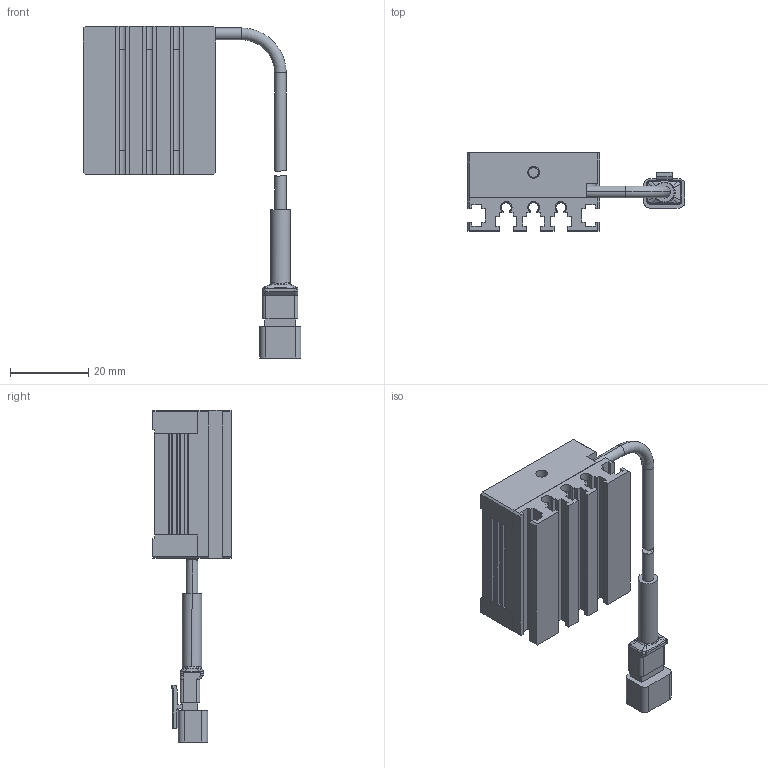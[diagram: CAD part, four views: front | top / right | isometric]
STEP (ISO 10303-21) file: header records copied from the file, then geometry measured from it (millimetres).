
FILE_DESCRIPTION (( 'STEP AP203' ), '1' );
FILE_NAME ('26x30.STEP', '2024-09-30T00:03:01', ( 'CCS' ), ( 'シーシーエス株式会社' ), 'SwSTEP 2.0', 'SolidWorks 2022', '' );
FILE_SCHEMA (( 'CONFIG_CONTROL_DESIGN' ));
Length unit declared in the file: millimetre
Products named in the file (7): レンズ30; ブロック30A; BSCA002-N007_M2x12_CAP(三価ｸﾛﾑ黒色); SMケーブル_パターン2; ブロック30B; フレーム30; 26x30
Assembly tree (9 placements, depth 2):
  26x30
    フレーム30
    レンズ30
    ブロック30B
    ブロック30A
    BSCA002-N007_M2x12_CAP(三価ｸﾛﾑ黒色)  x4
    SMケーブル_パターン2
Bounding box: 55.75 x 20 x 85 mm (x, y, z)
Volume: 21407.9 mm3; surface area: 15446.3 mm2
Topology: 10 solids, 10 shells, 481 faces, 1243 edges, 785 vertices
Faces by surface type: plane 288, cylinder 107, bspline 44, cone 24, torus 18
Entity records: 14886 total; most frequent: CARTESIAN_POINT 4295, ORIENTED_EDGE 2118, DIRECTION 1903, EDGE_CURVE 1059, VECTOR 761, LINE 761, VERTEX_POINT 686, AXIS2_PLACEMENT_3D 571
